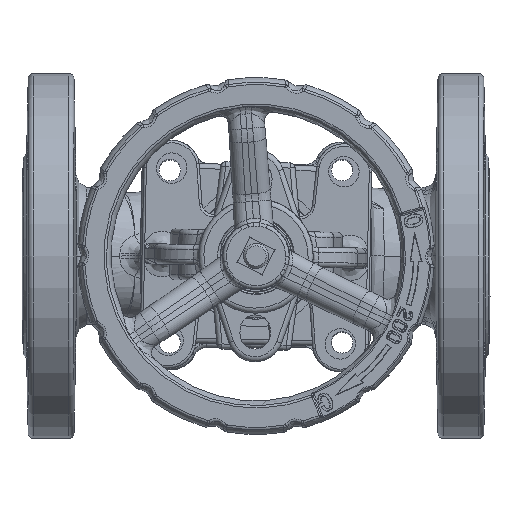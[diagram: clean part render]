
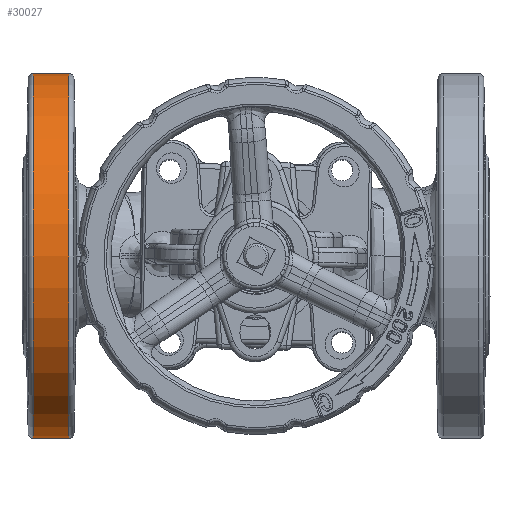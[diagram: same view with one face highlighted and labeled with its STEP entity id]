
A CAD part, front view. The second image highlights one B-rep face of the part: STEP entity #30027.
In plain terms, the highlighted cylindrical face has radius 72 mm (diameter 144 mm), a full revolution.
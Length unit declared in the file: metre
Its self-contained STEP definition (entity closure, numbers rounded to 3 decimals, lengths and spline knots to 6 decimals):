
#2506=FACE_OUTER_BOUND('',#4430,.T.);
#4430=EDGE_LOOP('',(#23214,#23215,#23216,#23217,#23218));
#6220=CIRCLE('',#32490,0.072);
#6221=CIRCLE('',#32492,0.072);
#6222=CIRCLE('',#32493,0.072);
#7735=LINE('',#63363,#9307);
#9307=VECTOR('',#37071,0.072);
#13110=VERTEX_POINT('',#63356);
#13111=VERTEX_POINT('',#63360);
#13112=VERTEX_POINT('',#63361);
#16728=EDGE_CURVE('',#13110,#13110,#6220,.T.);
#16729=EDGE_CURVE('',#13111,#13112,#6221,.T.);
#16730=EDGE_CURVE('',#13112,#13110,#7735,.T.);
#16731=EDGE_CURVE('',#13112,#13111,#6222,.T.);
#23214=ORIENTED_EDGE('',*,*,#16729,.T.);
#23215=ORIENTED_EDGE('',*,*,#16730,.T.);
#23216=ORIENTED_EDGE('',*,*,#16728,.T.);
#23217=ORIENTED_EDGE('',*,*,#16730,.F.);
#23218=ORIENTED_EDGE('',*,*,#16731,.T.);
#29155=CYLINDRICAL_SURFACE('',#32491,0.072);
#30027=ADVANCED_FACE('',(#2506),#29155,.T.);
#32490=AXIS2_PLACEMENT_3D('',#63358,#37065,#37066);
#32491=AXIS2_PLACEMENT_3D('',#63359,#37067,#37068);
#32492=AXIS2_PLACEMENT_3D('',#63362,#37069,#37070);
#32493=AXIS2_PLACEMENT_3D('',#63364,#37072,#37073);
#37065=DIRECTION('center_axis',(1.,0.,0.));
#37066=DIRECTION('ref_axis',(0.,0.,1.));
#37067=DIRECTION('center_axis',(1.,0.,0.));
#37068=DIRECTION('ref_axis',(0.,0.,1.));
#37069=DIRECTION('center_axis',(-1.,0.,0.));
#37070=DIRECTION('ref_axis',(0.,0.,-1.));
#37071=DIRECTION('',(-1.,0.,0.));
#37072=DIRECTION('center_axis',(-1.,0.,0.));
#37073=DIRECTION('ref_axis',(0.,0.,-1.));
#63356=CARTESIAN_POINT('',(0.200209,0.003827,-0.072));
#63358=CARTESIAN_POINT('Origin',(0.200209,0.003827,
0.));
#63359=CARTESIAN_POINT('Origin',(0.19625,0.003827,
0.));
#63360=CARTESIAN_POINT('',(0.214292,0.003827,0.072));
#63361=CARTESIAN_POINT('',(0.214292,0.003827,-0.072));
#63362=CARTESIAN_POINT('Origin',(0.214292,0.003827,
0.));
#63363=CARTESIAN_POINT('',(0.19625,0.003827,-0.072));
#63364=CARTESIAN_POINT('Origin',(0.214292,0.003827,
0.));
